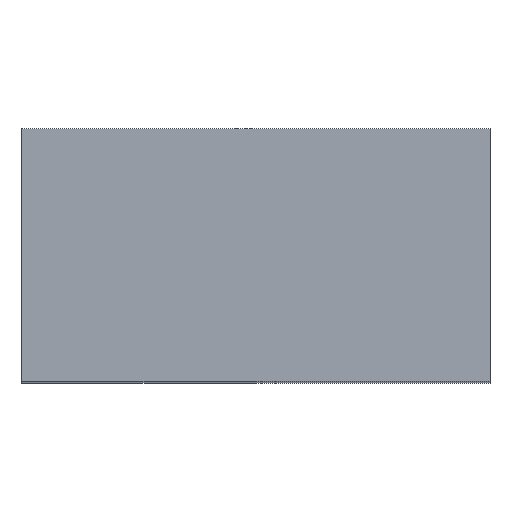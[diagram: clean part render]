
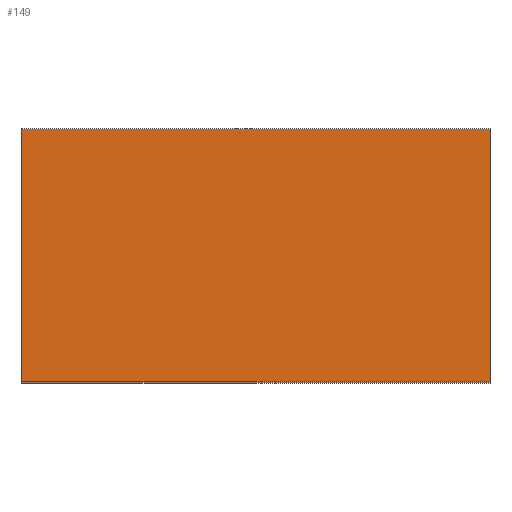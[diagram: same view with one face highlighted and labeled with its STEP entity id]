
A CAD part, top view. The second image highlights one B-rep face of the part: STEP entity #149.
In plain terms, the highlighted planar face has unit normal (0, 0, 1).
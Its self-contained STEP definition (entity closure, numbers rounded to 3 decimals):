
#33=CARTESIAN_POINT('',(-3.943,-1.07,24.97));
#34=VERTEX_POINT('',#33);
#37=CARTESIAN_POINT('',(-3.943,4.33,24.97));
#38=DIRECTION('',(0.,-1.,0.));
#39=VECTOR('',#38,1.);
#40=LINE('',#37,#39);
#41=CARTESIAN_POINT('',(-3.943,4.33,24.97));
#42=VERTEX_POINT('',#41);
#43=EDGE_CURVE('',#42,#34,#40,.T.);
#71=CARTESIAN_POINT('',(6.057,-1.07,24.97));
#72=VERTEX_POINT('',#71);
#75=CARTESIAN_POINT('',(-3.943,-1.07,24.97));
#76=DIRECTION('',(1.,0.,0.));
#77=VECTOR('',#76,1.);
#78=LINE('',#75,#77);
#79=EDGE_CURVE('',#34,#72,#78,.T.);
#102=CARTESIAN_POINT('',(6.057,4.33,24.97));
#103=VERTEX_POINT('',#102);
#106=CARTESIAN_POINT('',(6.057,4.33,24.97));
#107=DIRECTION('',(0.,1.,0.));
#108=VECTOR('',#107,1.);
#109=LINE('',#106,#108);
#110=EDGE_CURVE('',#72,#103,#109,.T.);
#128=CARTESIAN_POINT('',(-3.943,4.33,24.97));
#129=DIRECTION('',(-1.,0.,0.));
#130=VECTOR('',#129,1.);
#131=LINE('',#128,#130);
#132=EDGE_CURVE('',#103,#42,#131,.T.);
#138=CARTESIAN_POINT('',(0.,0.,24.97));
#139=DIRECTION('',(0.,0.,1.));
#140=DIRECTION('',(1.,0.,0.));
#141=AXIS2_PLACEMENT_3D('',#138,#139,#140);
#142=PLANE('',#141);
#143=ORIENTED_EDGE('',*,*,#43,.T.);
#144=ORIENTED_EDGE('',*,*,#79,.T.);
#145=ORIENTED_EDGE('',*,*,#110,.T.);
#146=ORIENTED_EDGE('',*,*,#132,.T.);
#147=EDGE_LOOP('',(#143,#144,#145,#146));
#148=FACE_OUTER_BOUND('',#147,.T.);
#149=ADVANCED_FACE('',(#148),#142,.T.);
